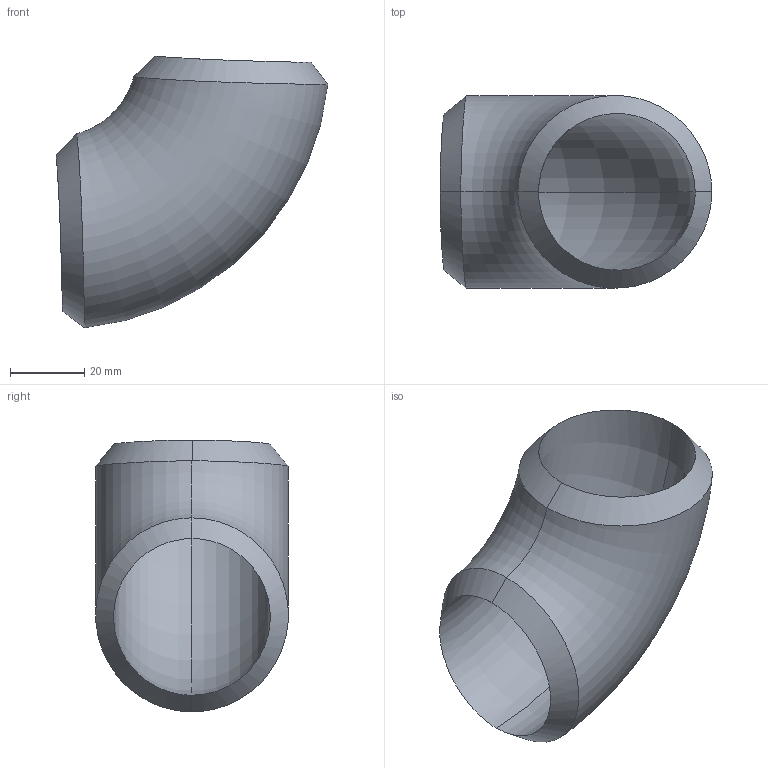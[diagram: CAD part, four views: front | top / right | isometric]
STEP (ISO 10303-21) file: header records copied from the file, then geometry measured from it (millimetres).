
FILE_DESCRIPTION (( 'STEP AP203' ), '1' );
FILE_NAME ('3D_R2651_1 1-4X80S_173425133.STEP', '2024-08-22T09:38:08', ( '' ), ( '' ), 'SwSTEP 2.0', 'SolidWorks 2024', '' );
FILE_SCHEMA (( 'CONFIG_CONTROL_DESIGN' ));
Length unit declared in the file: millimetre
Products named in the file (1): 3D_R2651_1 1-4X80S_173425133
Bounding box: 73.15 x 51.82 x 73.15 mm (x, y, z)
Volume: 47445.1 mm3; surface area: 21906.8 mm2
Topology: 1 solids, 1 shells, 10 faces, 26 edges, 16 vertices
Faces by surface type: bspline 4, torus 4, plane 2
Entity records: 3171 total; most frequent: CARTESIAN_POINT 2885, ORIENTED_EDGE 52, DIRECTION 30, EDGE_CURVE 26, B_SPLINE_CURVE_WITH_KNOTS 18, VERTEX_POINT 16, AXIS2_PLACEMENT_3D 15, EDGE_LOOP 10
